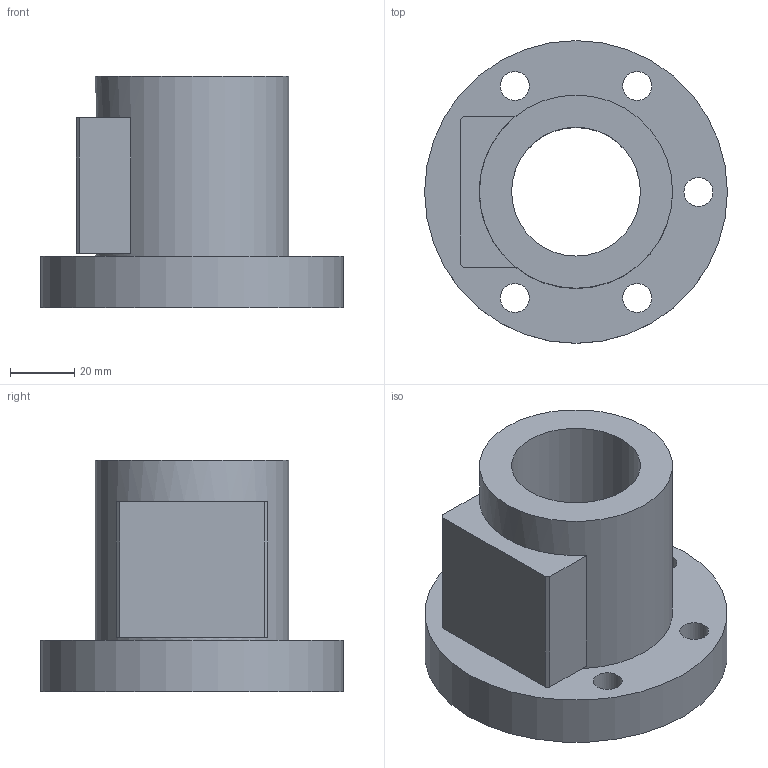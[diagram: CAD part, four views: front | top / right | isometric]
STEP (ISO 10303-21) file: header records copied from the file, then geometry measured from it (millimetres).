
FILE_DESCRIPTION(/* description */ (''),/* implementation_level */ '2;1');
FILE_NAME(/* name */ '40-6B2',/* time_stamp */ '2006-07-31T10:08:50+08:00',/* author */ (''),/* organization */ (''),/* preprocessor_version */ 'ST-DEVELOPER v9',/* originating_system */ 'UGS - NX 4.0',/* authorisation */ '');
FILE_SCHEMA (('CONFIG_CONTROL_DESIGN'));
Length unit declared in the file: millimetre
Products named in the file (1): 40-6B2
Bounding box: 94 x 94 x 72 mm (x, y, z)
Volume: 188558.6 mm3; surface area: 40020 mm2
Topology: 1 solids, 1 shells, 30 faces, 67 edges, 46 vertices
Faces by surface type: plane 17, cylinder 13
Full cylindrical faces by diameter (mm): 9 x5, 14 x5, 40 x1, 60 x1, 94 x1
Entity records: 860 total; most frequent: DIRECTION 140, CARTESIAN_POINT 123, ORIENTED_EDGE 100, EDGE_LOOP 62, AXIS2_PLACEMENT_3D 59, EDGE_CURVE 50, FACE_BOUND 45, VERTEX_POINT 42
